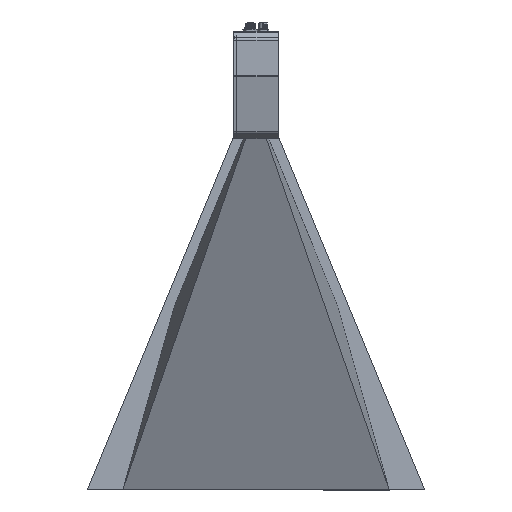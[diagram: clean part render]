
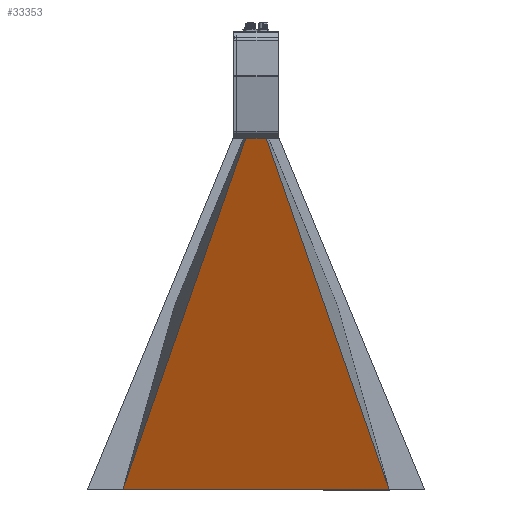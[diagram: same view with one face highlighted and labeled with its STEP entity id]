
A CAD part, left-side view. The second image highlights one B-rep face of the part: STEP entity #33353.
In plain terms, the highlighted planar face has unit normal (-0.915, 0, -0.404) as drawn and (0.108, -0.994, 0) by its records, which use the part's own axes.
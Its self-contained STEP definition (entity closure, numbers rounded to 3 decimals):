
#1699=PLANE('',#37290);
#5131=FACE_OUTER_BOUND('',#7338,.T.);
#7338=EDGE_LOOP('',(#30759,#30760,#30761,#30762));
#9762=LINE('',#93062,#12196);
#9765=LINE('',#93068,#12199);
#9769=LINE('',#93089,#12203);
#9770=LINE('',#93091,#12204);
#12196=VECTOR('',#46493,10.);
#12199=VECTOR('',#46498,10.);
#12203=VECTOR('',#46504,10.);
#12204=VECTOR('',#46507,569.925);
#16890=VERTEX_POINT('',#93059);
#16891=VERTEX_POINT('',#93061);
#16892=VERTEX_POINT('',#93065);
#16893=VERTEX_POINT('',#93067);
#21511=EDGE_CURVE('',#16890,#16891,#9762,.T.);
#21514=EDGE_CURVE('',#16893,#16892,#9765,.T.);
#21518=EDGE_CURVE('',#16893,#16890,#9769,.T.);
#21519=EDGE_CURVE('',#16892,#16891,#9770,.T.);
#30759=ORIENTED_EDGE('',*,*,#21514,.T.);
#30760=ORIENTED_EDGE('',*,*,#21519,.T.);
#30761=ORIENTED_EDGE('',*,*,#21511,.F.);
#30762=ORIENTED_EDGE('',*,*,#21518,.F.);
#33353=ADVANCED_FACE('',(#5131),#1699,.T.);
#37290=AXIS2_PLACEMENT_3D('',#93090,#46505,#46506);
#46493=DIRECTION('',(0.,0.,-1.));
#46498=DIRECTION('',(0.,0.,-1.));
#46504=DIRECTION('',(0.947,0.103,-0.305));
#46505=DIRECTION('center_axis',(0.108,-0.994,0.));
#46506=DIRECTION('ref_axis',(0.,0.,-1.));
#46507=DIRECTION('',(0.947,0.103,0.305));
#93059=CARTESIAN_POINT('',(0.,-4.,6.344));
#93061=CARTESIAN_POINT('',(0.,-4.,-6.344));
#93062=CARTESIAN_POINT('',(0.,-4.,-6.344));
#93065=CARTESIAN_POINT('',(-539.663,-62.5,-180.));
#93067=CARTESIAN_POINT('',(-539.663,-62.5,180.));
#93068=CARTESIAN_POINT('',(-539.663,-62.5,180.));
#93089=CARTESIAN_POINT('',(-539.663,-62.5,180.));
#93090=CARTESIAN_POINT('Origin',(-539.663,-62.5,180.));
#93091=CARTESIAN_POINT('',(-539.663,-62.5,-180.));
